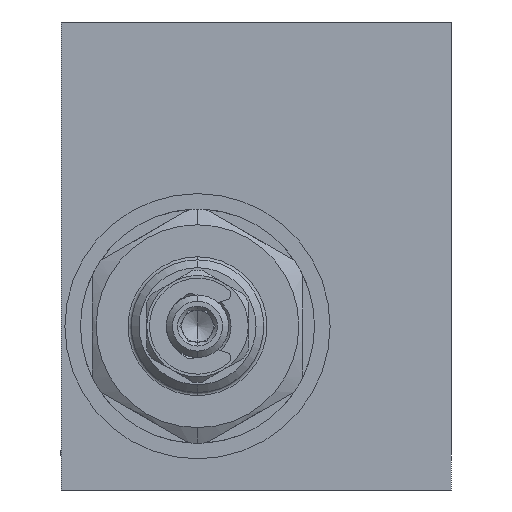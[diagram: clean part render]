
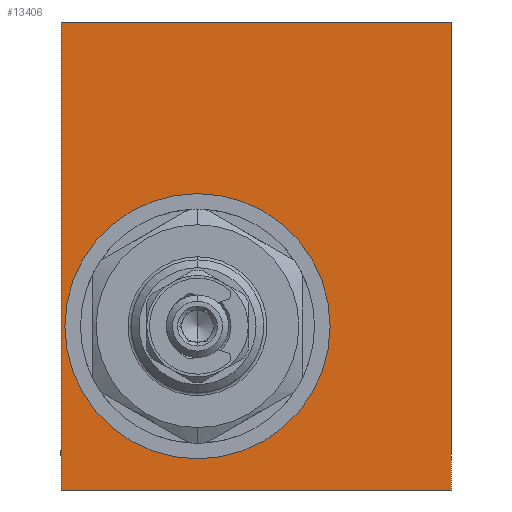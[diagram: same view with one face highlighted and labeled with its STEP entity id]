
A CAD part, left-side view. The second image highlights one B-rep face of the part: STEP entity #13406.
In plain terms, the highlighted planar face has unit normal (-1, 0, 0).
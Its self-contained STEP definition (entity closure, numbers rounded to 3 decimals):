
#345 = DIRECTION ( 'NONE',  ( -1., 0., 0. ) ) ;
#348 = ORIENTED_EDGE ( 'NONE', *, *, #9014, .F. ) ;
#498 = DIRECTION ( 'NONE',  ( 0., 0., 1. ) ) ;
#668 = DIRECTION ( 'NONE',  ( 0., 0., 1. ) ) ;
#900 = DIRECTION ( 'NONE',  ( 0., 0., 1. ) ) ;
#968 = VECTOR ( 'NONE', #5139, 1000. ) ;
#2640 = PLANE ( 'NONE',  #5734 ) ;
#2694 = CIRCLE ( 'NONE', #11241, 17. ) ;
#3084 = ORIENTED_EDGE ( 'NONE', *, *, #13475, .F. ) ;
#3692 = DIRECTION ( 'NONE',  ( 0., 1., 0. ) ) ;
#3706 = CARTESIAN_POINT ( 'NONE',  ( 0., 25., -30. ) ) ;
#4088 = LINE ( 'NONE', #12132, #968 ) ;
#4349 = VERTEX_POINT ( 'NONE', #3706 ) ;
#4552 = CIRCLE ( 'NONE', #8184, 17. ) ;
#5139 = DIRECTION ( 'NONE',  ( 0., 0., -1. ) ) ;
#5734 = AXIS2_PLACEMENT_3D ( 'NONE', #7383, #345, #8558 ) ;
#6080 = ORIENTED_EDGE ( 'NONE', *, *, #8060, .F. ) ;
#6155 = CARTESIAN_POINT ( 'NONE',  ( 0., 25., 30. ) ) ;
#6403 = VECTOR ( 'NONE', #900, 1000. ) ;
#6883 = LINE ( 'NONE', #10731, #9230 ) ;
#7383 = CARTESIAN_POINT ( 'NONE',  ( 0., 25., -30. ) ) ;
#7538 = DIRECTION ( 'NONE',  ( -1., 0., 0. ) ) ;
#7697 = DIRECTION ( 'NONE',  ( -1., 0., 0. ) ) ;
#7701 = ORIENTED_EDGE ( 'NONE', *, *, #11902, .F. ) ;
#7898 = EDGE_LOOP ( 'NONE', ( #348, #7701, #6080, #14132 ) ) ;
#8060 = EDGE_CURVE ( 'NONE', #11859, #9821, #10500, .T. ) ;
#8184 = AXIS2_PLACEMENT_3D ( 'NONE', #14720, #7697, #668 ) ;
#8315 = CARTESIAN_POINT ( 'NONE',  ( 0., 7.5, -26. ) ) ;
#8558 = DIRECTION ( 'NONE',  ( 0., 0., 1. ) ) ;
#9014 = EDGE_CURVE ( 'NONE', #12816, #4349, #6883, .T. ) ;
#9078 = CARTESIAN_POINT ( 'NONE',  ( 0., 25., 30. ) ) ;
#9230 = VECTOR ( 'NONE', #3692, 1000. ) ;
#9422 = CARTESIAN_POINT ( 'NONE',  ( 0., -25., -30. ) ) ;
#9675 = CARTESIAN_POINT ( 'NONE',  ( 0., -25., 30. ) ) ;
#9821 = VERTEX_POINT ( 'NONE', #12424 ) ;
#9867 = LINE ( 'NONE', #9078, #6403 ) ;
#10500 = LINE ( 'NONE', #9675, #13594 ) ;
#10731 = CARTESIAN_POINT ( 'NONE',  ( 0., -25., -30. ) ) ;
#10802 = DIRECTION ( 'NONE',  ( 0., -1., 0. ) ) ;
#11174 = ORIENTED_EDGE ( 'NONE', *, *, #13042, .F. ) ;
#11241 = AXIS2_PLACEMENT_3D ( 'NONE', #14541, #7538, #498 ) ;
#11859 = VERTEX_POINT ( 'NONE', #6155 ) ;
#11868 = FACE_OUTER_BOUND ( 'NONE', #7898, .T. ) ;
#11902 = EDGE_CURVE ( 'NONE', #9821, #12816, #4088, .T. ) ;
#11999 = EDGE_LOOP ( 'NONE', ( #3084, #11174 ) ) ;
#12132 = CARTESIAN_POINT ( 'NONE',  ( 0., -25., 30. ) ) ;
#12424 = CARTESIAN_POINT ( 'NONE',  ( 0., -25., 30. ) ) ;
#12816 = VERTEX_POINT ( 'NONE', #9422 ) ;
#13042 = EDGE_CURVE ( 'NONE', #14390, #13137, #4552, .T. ) ;
#13137 = VERTEX_POINT ( 'NONE', #13636 ) ;
#13406 = ADVANCED_FACE ( 'NONE', ( #14637, #11868 ), #2640, .T. ) ;
#13475 = EDGE_CURVE ( 'NONE', #13137, #14390, #2694, .T. ) ;
#13594 = VECTOR ( 'NONE', #10802, 1000. ) ;
#13636 = CARTESIAN_POINT ( 'NONE',  ( 0., 7.5, 8. ) ) ;
#14132 = ORIENTED_EDGE ( 'NONE', *, *, #14692, .F. ) ;
#14390 = VERTEX_POINT ( 'NONE', #8315 ) ;
#14541 = CARTESIAN_POINT ( 'NONE',  ( 0., 7.5, -9. ) ) ;
#14637 = FACE_BOUND ( 'NONE', #11999, .T. ) ;
#14692 = EDGE_CURVE ( 'NONE', #4349, #11859, #9867, .T. ) ;
#14720 = CARTESIAN_POINT ( 'NONE',  ( 0., 7.5, -9. ) ) ;
